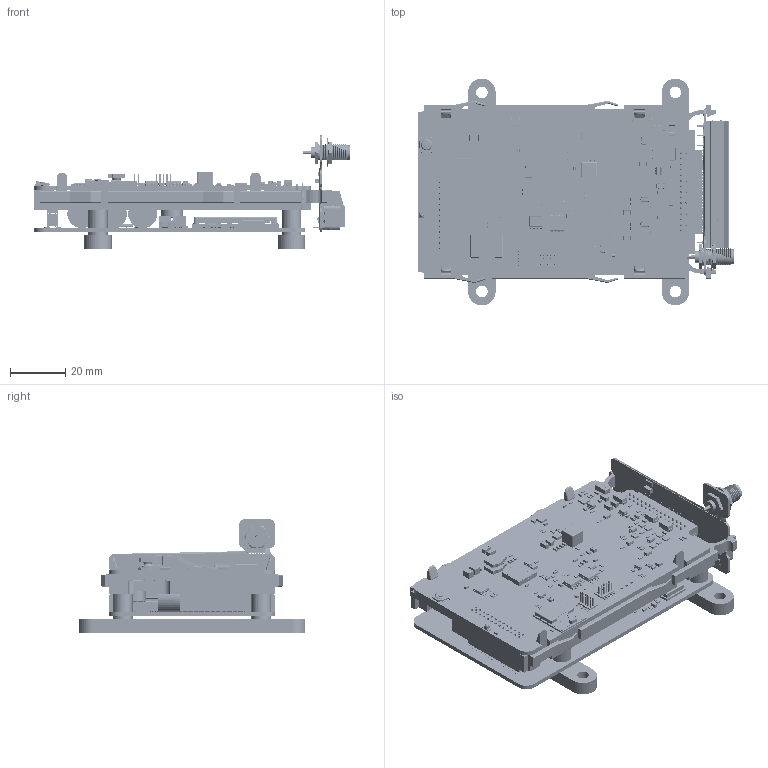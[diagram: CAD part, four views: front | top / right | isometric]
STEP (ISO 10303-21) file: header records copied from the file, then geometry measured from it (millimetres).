
FILE_DESCRIPTION (( 'STEP AP203' ), '1' );
FILE_NAME ('OEM.STEP', '2025-05-15T09:05:22', ( '' ), ( '' ), 'SwSTEP 2.0', 'SolidWorks 2024', '' );
FILE_SCHEMA (( 'CONFIG_CONTROL_DESIGN' ));
Products named in the file (1): OEM
Bounding box: 114.1 x 82 x 41 mm (x, y, z)
Surface area: 83901.5 mm2 (no closed solid volume)
Topology: 0 solids, 920 shells, 27313 faces, 75549 edges, 50479 vertices
Faces by surface type: plane 18903, bspline 8410
Entity records: 933945 total; most frequent: CARTESIAN_POINT 279722, ORIENTED_EDGE 145376, DIRECTION 116165, EDGE_CURVE 75401, LINE 54303, VECTOR 54303, VERTEX_POINT 50475, AXIS2_PLACEMENT_3D 30931
